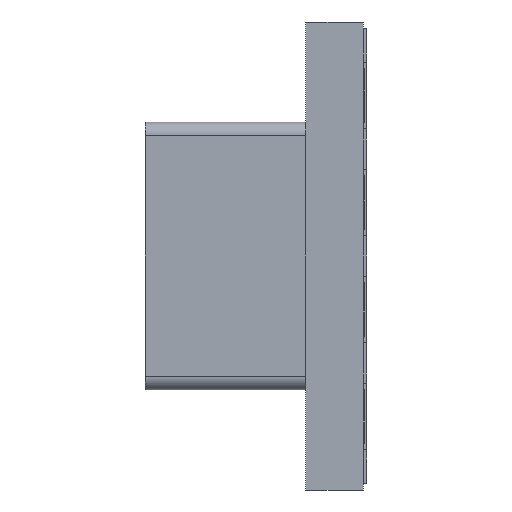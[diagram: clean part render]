
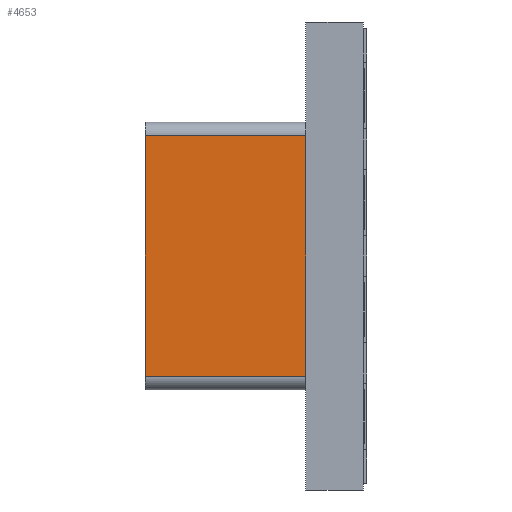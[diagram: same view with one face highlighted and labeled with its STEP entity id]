
A CAD part, left-side view. The second image highlights one B-rep face of the part: STEP entity #4653.
In plain terms, the highlighted planar face has unit normal (-1, 0, 0) as drawn and (1, 0, 0) by its records, which use the part's own axes.
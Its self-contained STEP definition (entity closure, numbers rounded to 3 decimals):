
#4488=DIRECTION('',(0.,0.,-1.));
#4489=VECTOR('',#4488,1.8);
#4490=CARTESIAN_POINT('',(0.6,0.,0.9));
#4491=LINE('',#4490,#4489);
#4495=DIRECTION('',(0.,-1.,0.));
#4496=VECTOR('',#4495,1.2);
#4497=CARTESIAN_POINT('',(0.6,1.2,-0.9));
#4498=LINE('',#4497,#4496);
#4502=DIRECTION('',(0.,-1.,0.));
#4503=VECTOR('',#4502,1.2);
#4504=CARTESIAN_POINT('',(0.6,1.2,0.9));
#4505=LINE('',#4504,#4503);
#4545=DIRECTION('',(0.,0.,-1.));
#4546=VECTOR('',#4545,1.8);
#4547=CARTESIAN_POINT('',(0.6,1.2,0.9));
#4548=LINE('',#4547,#4546);
#4590=CARTESIAN_POINT('',(0.6,0.,-0.9));
#4592=VERTEX_POINT('',#4590);
#4593=CARTESIAN_POINT('',(0.6,1.2,-0.9));
#4594=VERTEX_POINT('',#4593);
#4597=CARTESIAN_POINT('',(0.6,0.,0.9));
#4599=VERTEX_POINT('',#4597);
#4603=CARTESIAN_POINT('',(0.6,1.2,0.9));
#4604=VERTEX_POINT('',#4603);
#4640=CARTESIAN_POINT('',(0.6,0.,1.));
#4641=DIRECTION('',(1.,0.,0.));
#4642=DIRECTION('',(0.,0.,-1.));
#4643=AXIS2_PLACEMENT_3D('',#4640,#4641,#4642);
#4644=PLANE('',#4643);
#4645=ORIENTED_EDGE('',*,*,#4631,.T.);
#4646=ORIENTED_EDGE('',*,*,#4620,.F.);
#4648=ORIENTED_EDGE('',*,*,#4647,.F.);
#4650=ORIENTED_EDGE('',*,*,#4649,.T.);
#4651=EDGE_LOOP('',(#4645,#4646,#4648,#4650));
#4652=FACE_OUTER_BOUND('',#4651,.F.);
#4653=ADVANCED_FACE('',(#4652),#4644,.T.);
#4620=EDGE_CURVE('',#4599,#4592,#4491,.T.);
#4631=EDGE_CURVE('',#4594,#4592,#4498,.T.);
#4647=EDGE_CURVE('',#4604,#4599,#4505,.T.);
#4649=EDGE_CURVE('',#4604,#4594,#4548,.T.);
